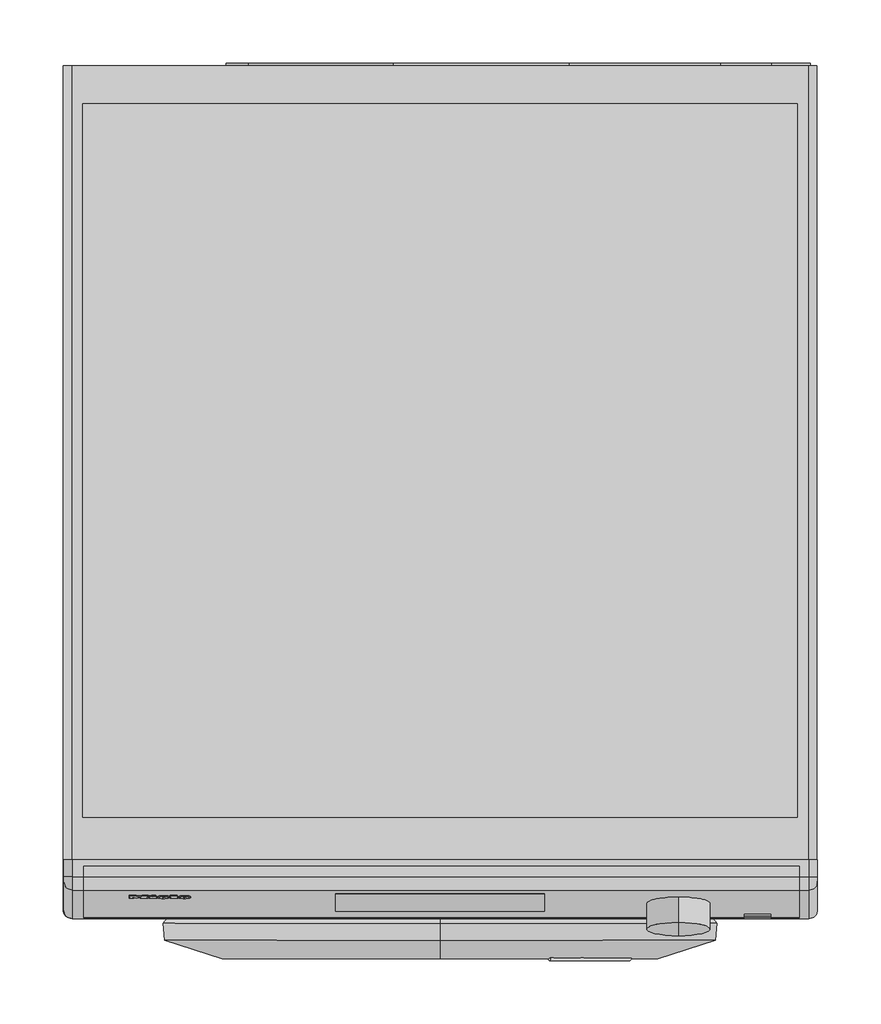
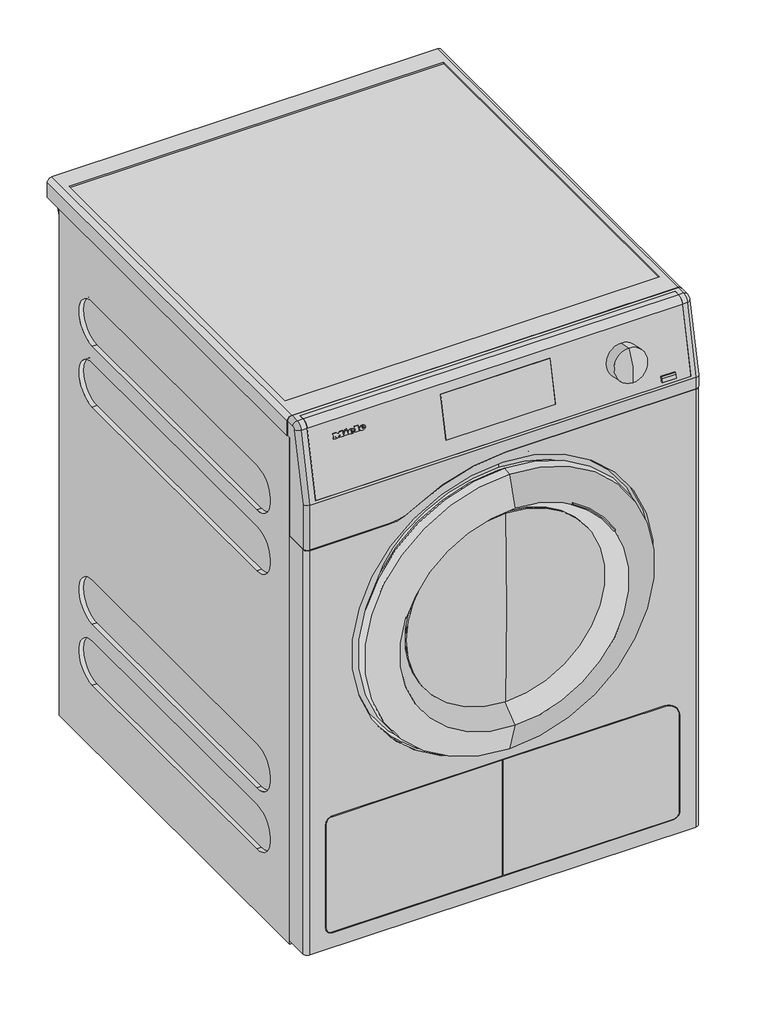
# Not in any storey: 1 proxy.
"""IFC4 building model written with IfcOpenShell, lengths in millimetres."""

from ifc_helpers import new_model, si_unit, origin, place, context, project, spatial, transform, mapped, element, save
from components import specialty_equipment_35a6990b, specialty_equipment_5726b327

model = new_model("IFC4")

# Units and contexts
model_context = context("Model", 3, world=origin())
ifc_project = project(units=[si_unit("LENGTHUNIT", "METRE", prefix="MILLI")], contexts=[model_context])

# Site, building
site = spatial("IfcSite", under=ifc_project)
building = spatial("IfcBuilding", under=site)

# Proxy
placement = place(None, origin())
specialty_equipment_shape = specialty_equipment_35a6990b(model_context)
specialty_equipment_2_shape = specialty_equipment_5726b327(model_context)
element("IfcBuildingElementProxy", 1, Name="12752390_B_PDR508ROPEL_LW : 52508362_B_12752390_PDR508ROPEL_LW", ObjectType="12752390_B_PDR508ROPEL_LW : 52508362_B_12752390_PDR508ROPEL_LW", at=placement, inside=building, context=model_context, shape_type="MappedRepresentation", body=[
    mapped(specialty_equipment_shape, transform((0.0, 0.0, 0.0), x_axis=(1.0, 0.0, 0.0), y_axis=(0.0, 1.0, 0.0), z_axis=(0.0, 0.0, 1.0))),
    mapped(specialty_equipment_2_shape, transform((0.0, 0.0, 0.0), x_axis=(1.0, 0.0, 0.0), y_axis=(0.0, 1.0, 0.0), z_axis=(0.0, 0.0, 1.0))),
])

save(model, "model.ifc")
